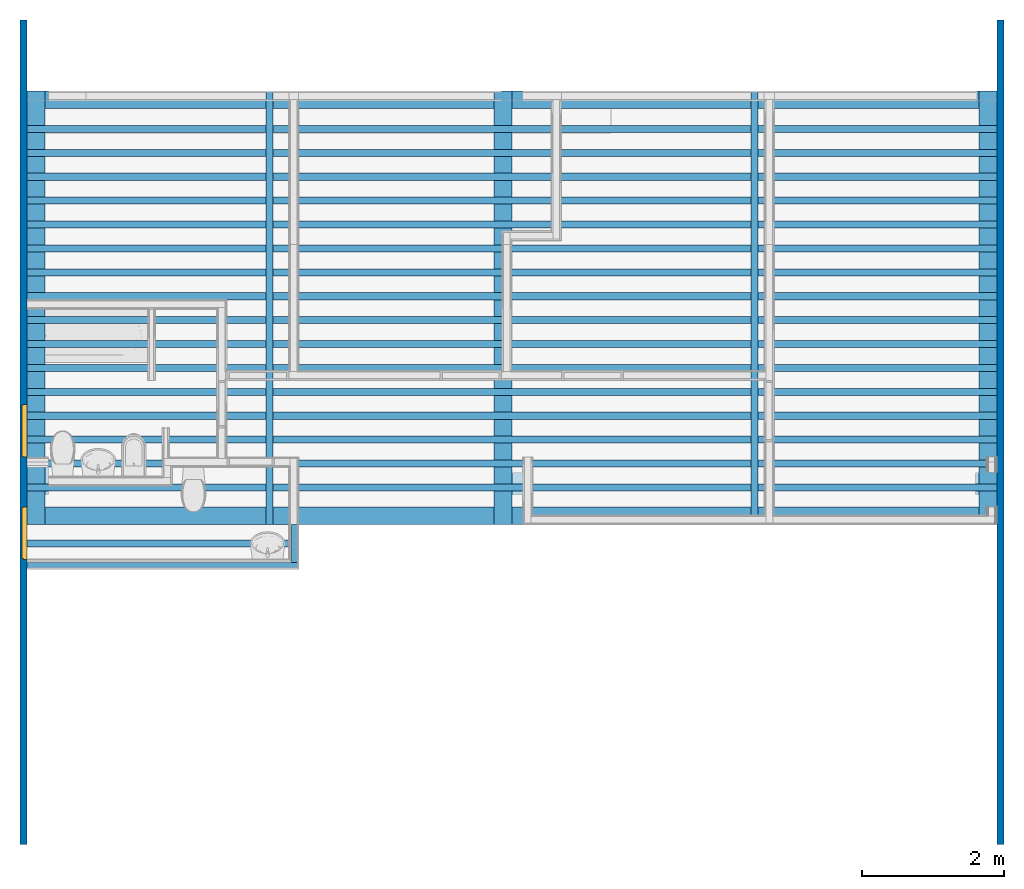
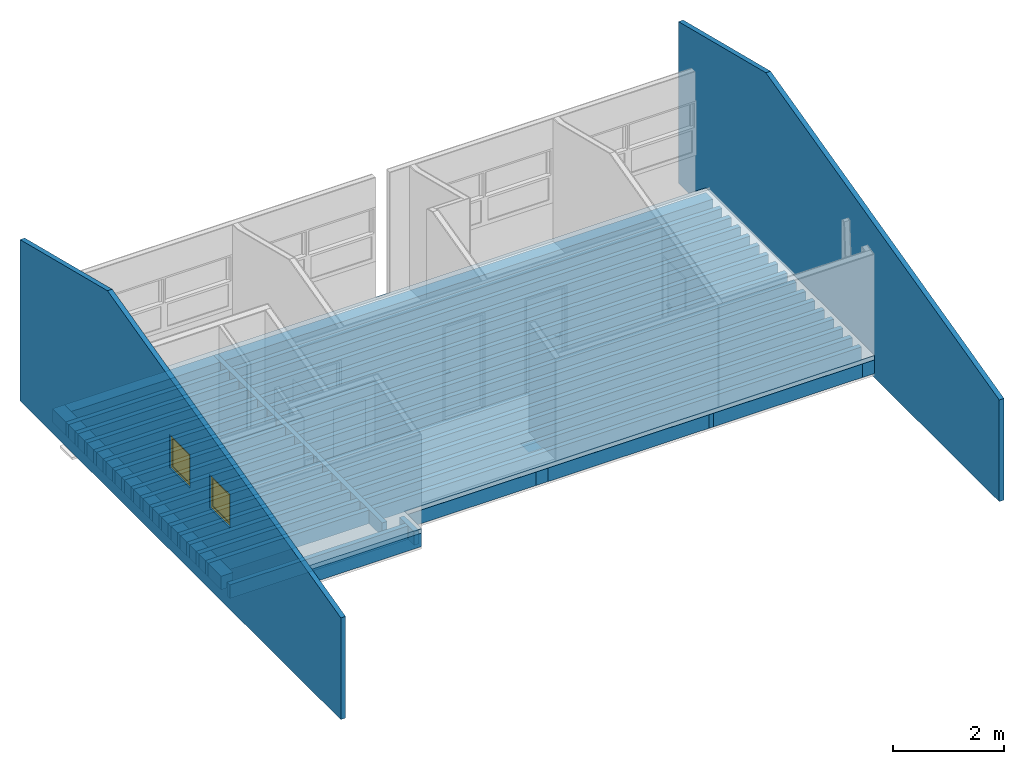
# One storey, part 1 of 13: 26 beams, 2 walls, 2 windows, 1 slab, 2 openings.
"""IFC2X3 building model written with IfcOpenShell, lengths in millimetres."""

from ifc_helpers import new_model, entity, si_unit, converted_unit, derived_unit, money_unit, direction, frame, frame_2d, origin_with_axes, origin_2d_with_axis, place, context, subcontext, project, spatial, polyline, rectangle, outline, extrude, boolean, open_shell, faceted_brep, surface_model, source, transform, mapped, material, layer, layer_set, layer_usage, type_object, element, fill, save


model = new_model("IFC2X3")

# Units and contexts
model_context = context("Model", 3, precision=0.01, world=origin_with_axes(), true_north=direction((0.293984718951, 0.955810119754)))
body_context = subcontext(model_context, "Body", "Model", "MODEL_VIEW")
ifc_project = project(units=[si_unit("LENGTHUNIT", "METRE", prefix="MILLI"), si_unit("AREAUNIT", "SQUARE_METRE"), si_unit("VOLUMEUNIT", "CUBIC_METRE"), converted_unit("PLANEANGLEUNIT", "DEGREE", entity("IfcPlaneAngleMeasure", 0.0174532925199), si_unit("PLANEANGLEUNIT", "RADIAN"), dimensions=[0, 0, 0, 0, 0, 0, 0]), si_unit("SOLIDANGLEUNIT", "STERADIAN"), money_unit("USD"), converted_unit("TIMEUNIT", "Year", entity("IfcTimeMeasure", 31556926.0), si_unit("TIMEUNIT", "SECOND"), dimensions=[0, 0, 1, 0, 0, 0, 0]), si_unit("MASSUNIT", "GRAM", prefix="KILO"), si_unit("THERMODYNAMICTEMPERATUREUNIT", "DEGREE_CELSIUS"), si_unit("LUMINOUSINTENSITYUNIT", "LUMEN"), si_unit("ENERGYUNIT", "JOULE", prefix="MEGA"), derived_unit("THERMALCONDUCTANCEUNIT", [(si_unit("POWERUNIT", "WATT"), 1), (si_unit("LENGTHUNIT", "METRE"), -1), (si_unit("THERMODYNAMICTEMPERATUREUNIT", "KELVIN"), -1)]), derived_unit("SPECIFICHEATCAPACITYUNIT", [(si_unit("ENERGYUNIT", "JOULE"), 1), (si_unit("MASSUNIT", "GRAM", prefix="KILO"), -1), (si_unit("THERMODYNAMICTEMPERATUREUNIT", "KELVIN"), -1)]), derived_unit("MASSDENSITYUNIT", [(si_unit("MASSUNIT", "GRAM", prefix="KILO"), 1), (si_unit("VOLUMEUNIT", "CUBIC_METRE"), -1)])], contexts=[model_context])

# Site, building, storey
site_placement = place(None, origin_with_axes())
site = spatial("IfcSite", under=ifc_project, at=site_placement, Name="Local", CompositionType="ELEMENT")
building_placement = place(site_placement, origin_with_axes())
building = spatial("IfcBuilding", under=site, at=building_placement, Name="Construção", CompositionType="ELEMENT")
storey_placement = place(building_placement, frame((0.0, 0.0, 3050.0), z_axis=(0.0, 0.0, 1.0), x_axis=(1.0, 0.0, 0.0)))
storey = spatial("IfcBuildingStorey", under=building, at=storey_placement, Name="Primeiro Pavimento", CompositionType="ELEMENT", Elevation=3050.0)

# Beams
ifc_material = material(Name="Concreto Armado - Estrutural")
beam_type_1 = type_object("IfcBeamType", Name="Concreto Armado - Estrutural 250 x 300", PredefinedType="NOTDEFINED")
beam_1_placement = place(storey_placement, frame((7009.64507267, 6850.63219788, -100.0), z_axis=(0.0, 0.0, 1.0), x_axis=(0.0, -1.0, 0.0)))
element("IfcBeam", 1, at=beam_1_placement, inside=storey, type_object=beam_type_1, material=ifc_material, Name="V13", context=body_context, shape_type="SweptSolid", body=[
    extrude(rectangle(XDim=300.0, YDim=250.0, at=frame_2d((-150.0, -125.0), x_axis=(1.0, 0.0))), frame((0.0, 0.0, 0.0), z_axis=(0.0, 1.0, 0.0), x_axis=(0.0, 0.0, 1.0)), (0.0, 0.0, 1.0), 13640.0),
])
beam_2_placement = place(storey_placement, frame((20649.6450727, 6850.63219788, -100.0), z_axis=(0.0, 0.0, 1.0), x_axis=(1.0, 0.0, 0.0)))
element("IfcBeam", 2, at=beam_2_placement, inside=storey, type_object=beam_type_1, material=ifc_material, Name="V13", context=body_context, shape_type="SweptSolid", body=[
    extrude(rectangle(XDim=300.0, YDim=250.0, at=frame_2d((-150.0, -125.0), x_axis=(1.0, 0.0))), frame((0.0, 0.0, 0.0), z_axis=(0.0, 1.0, 0.0), x_axis=(0.0, 0.0, 1.0)), (0.0, 0.0, 1.0), 6100.0),
])
beam_3_placement = place(storey_placement, frame((20649.6450727, 12950.6321979, -100.0), z_axis=(0.0, 0.0, 1.0), x_axis=(0.0, 1.0, 0.0)))
element("IfcBeam", 3, at=beam_3_placement, inside=storey, type_object=beam_type_1, material=ifc_material, Name="V13", context=body_context, shape_type="SweptSolid", body=[
    extrude(rectangle(XDim=300.0, YDim=250.0, at=frame_2d((-150.0, -125.0), x_axis=(1.0, 0.0))), frame((0.0, 0.0, 0.0), z_axis=(0.0, 1.0, 0.0), x_axis=(0.0, 0.0, 1.0)), (0.0, 0.0, 1.0), 13640.0),
])
for number, where, z_axis, x_axis, name in (
    (4, (7009.64507267, 12950.6321979, -100.0), (0.0, 0.0, 1.0), (-1.0, 0.0, 0.0), "V13"),
    (5, (13829.6450727, 6850.63219788, -100.0), (0.0, 0.0, 1.0), (1.0, 0.0, 0.0), "V13"),
):
    element("IfcBeam", number, at=place(storey_placement, frame(where, z_axis=z_axis, x_axis=x_axis)), inside=storey, type_object=beam_type_1, material=ifc_material, Name=name, context=body_context, shape_type="SweptSolid", body=[
        extrude(rectangle(XDim=300.0, YDim=250.0, at=frame_2d((-150.0, -125.0), x_axis=(1.0, 0.0))), frame((0.0, 0.0, 0.0), z_axis=(0.0, 1.0, 0.0), x_axis=(0.0, 0.0, 1.0)), (0.0, 0.0, 1.0), 6100.0),
    ])
beam_type_2 = type_object("IfcBeamType", Name="Concreto Armado - Estrutural 100 x 300", PredefinedType="NOTDEFINED")
for number, where, z_axis, x_axis, name in (
    (6, (20649.6450727, 7373.13219788, -100.0), (0.0, 0.0, 1.0), (0.0, 1.0, 0.0), "V13"),
    (7, (20649.6450727, 7709.22594788, -100.0), (0.0, 0.0, 1.0), (0.0, 1.0, 0.0), "V13"),
    (8, (20649.6450727, 8045.31969788, -100.0), (0.0, 0.0, 1.0), (0.0, 1.0, 0.0), "V13"),
    (9, (20649.6450727, 8381.41344788, -100.0), (0.0, 0.0, 1.0), (0.0, 1.0, 0.0), "V13"),
    (10, (20649.6450727, 8717.50719788, -100.0), (0.0, 0.0, 1.0), (0.0, 1.0, 0.0), "V13"),
    (11, (20649.6450727, 9053.60094788, -100.0), (0.0, 0.0, 1.0), (0.0, 1.0, 0.0), "V13"),
    (12, (20649.6450727, 9389.69469788, -100.0), (0.0, 0.0, 1.0), (0.0, 1.0, 0.0), "V13"),
    (13, (20649.6450727, 9725.78844788, -100.0), (0.0, 0.0, 1.0), (0.0, 1.0, 0.0), "V13"),
    (14, (20649.6450727, 10061.8821979, -100.0), (0.0, 0.0, 1.0), (0.0, 1.0, 0.0), "V13"),
    (15, (20649.6450727, 10397.9759479, -100.0), (0.0, 0.0, 1.0), (0.0, 1.0, 0.0), "V13"),
    (16, (20649.6450727, 10734.0696979, -100.0), (0.0, 0.0, 1.0), (0.0, 1.0, 0.0), "V13"),
    (17, (20649.6450727, 11070.1634479, -100.0), (0.0, 0.0, 1.0), (0.0, 1.0, 0.0), "V13"),
    (18, (20649.6450727, 11406.2571979, -100.0), (0.0, 0.0, 1.0), (0.0, 1.0, 0.0), "V13"),
    (19, (20649.6450727, 11742.3509479, -100.0), (0.0, 0.0, 1.0), (0.0, 1.0, 0.0), "V13"),
    (20, (20649.6450727, 12078.4446979, -100.0), (0.0, 0.0, 1.0), (0.0, 1.0, 0.0), "V13"),
    (21, (20649.6450727, 12414.5384479, -100.0), (0.0, 0.0, 1.0), (0.0, 1.0, 0.0), "V13"),
):
    element("IfcBeam", number, at=place(storey_placement, frame(where, z_axis=z_axis, x_axis=x_axis)), inside=storey, type_object=beam_type_2, material=ifc_material, Name=name, context=body_context, shape_type="SweptSolid", body=[
        extrude(rectangle(XDim=300.0, YDim=100.0, at=frame_2d((-150.0, 0.0), x_axis=(1.0, 0.0))), frame((0.0, 0.0, 0.0), z_axis=(0.0, 1.0, 0.0), x_axis=(0.0, 0.0, 1.0)), (0.0, 0.0, 1.0), 13640.0),
    ])
for number, where, z_axis, x_axis, name in (
    (22, (10419.6450727, 6850.63219788, -100.0), (0.0, 0.0, 1.0), (1.0, 0.0, 0.0), "V13"),
    (23, (17239.6450727, 6850.63219788, -100.0), (0.0, 0.0, 1.0), (1.0, 0.0, 0.0), "V13"),
):
    element("IfcBeam", number, at=place(storey_placement, frame(where, z_axis=z_axis, x_axis=x_axis)), inside=storey, type_object=beam_type_2, material=ifc_material, Name=name, context=body_context, shape_type="SweptSolid", body=[
        extrude(rectangle(XDim=300.0, YDim=100.0, at=frame_2d((-150.0, 0.0), x_axis=(1.0, 0.0))), frame((0.0, 0.0, 0.0), z_axis=(0.0, 1.0, 0.0), x_axis=(0.0, 0.0, 1.0)), (0.0, 0.0, 1.0), 6100.0),
    ])
beam_4_placement = place(storey_placement, frame((10829.6450727, 6270.63219788, -100.0), z_axis=(0.0, 0.0, 1.0), x_axis=(0.0, 1.0, 0.0)))
element("IfcBeam", 24, at=beam_4_placement, inside=storey, type_object=beam_type_2, material=ifc_material, Name="V13", context=body_context, shape_type="SweptSolid", body=[
    extrude(rectangle(XDim=300.0, YDim=100.0, at=frame_2d((-150.0, 0.0), x_axis=(1.0, 0.0))), frame((0.0, 0.0, 0.0), z_axis=(0.0, 1.0, 0.0), x_axis=(0.0, 0.0, 1.0)), (0.0, 0.0, 1.0), 3820.0),
])
beam_5_placement = place(storey_placement, frame((10829.6450727, 6585.63219788, -100.0), z_axis=(0.0, 0.0, 1.0), x_axis=(0.0, 1.0, 0.0)))
element("IfcBeam", 25, at=beam_5_placement, inside=storey, type_object=beam_type_2, material=ifc_material, Name="V13", context=body_context, shape_type="SweptSolid", body=[
    extrude(rectangle(XDim=300.0, YDim=100.0, at=frame_2d((-150.0, 0.0), x_axis=(1.0, 0.0))), frame((0.0, 0.0, 0.0), z_axis=(0.0, 1.0, 0.0), x_axis=(0.0, 0.0, 1.0)), (0.0, 0.0, 1.0), 3820.00000001),
])
beam_6_placement = place(storey_placement, frame((10829.6450727, 6850.63219788, -100.0), z_axis=(0.0, 0.0, 1.0), x_axis=(-1.0, 0.0, 0.0)))
element("IfcBeam", 26, at=beam_6_placement, inside=storey, type_object=beam_type_2, material=ifc_material, Name="V13", context=body_context, shape_type="SweptSolid", body=[
    extrude(rectangle(XDim=300.0, YDim=100.0, at=frame_2d((-150.0, 50.0), x_axis=(1.0, 0.0))), frame((0.0, 0.0, 0.0), z_axis=(0.0, 1.0, 0.0), x_axis=(0.0, 0.0, 1.0)), (0.0, 0.0, 1.0), 530.000000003),
])

# Slab
ifc_layer = layer(ifc_material, 100.0, ventilated="UNKNOWN")
ifc_layer_set = layer_set([ifc_layer], Name="Concreto Armado - Estrutural 100")
ifc_layer_usage = layer_usage(ifc_layer_set, "AXIS3", "NEGATIVE", 100.0)
slab_type = type_object("IfcSlabType", Name="Concreto Armado - Estrutural 100", PredefinedType="FLOOR")
slab_placement = place(storey_placement, frame((7009.64507267, 6220.63219788, 0.0), z_axis=(0.0, 0.0, 1.0), x_axis=(1.0, 0.0, 0.0)))
element("IfcSlab", 27, at=slab_placement, inside=storey, type_object=slab_type, material=ifc_layer_usage, Name="Laje-01", PredefinedType="FLOOR", context=body_context, shape_type="SweptSolid", body=[
    extrude(outline(polyline([(0.0, 0.0), (3820.0, 0.0), (3820.0, 630.000000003), (13640.0, 630.000000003), (13640.0, 6730.0), (0.0, 6730.0), (0.0, 0.0)])), frame((0.0, 0.0, -100.0), z_axis=(0.0, 0.0, 1.0), x_axis=(1.0, 0.0, 0.0)), (0.0, 0.0, 1.0), 100.0),
])

# Wall
wall_type = type_object("IfcWallType", Name="Concreto Armado - Estrutural 100", PredefinedType="NOTDEFINED")
wall_1_placement = place(storey_placement, frame((20649.6450727, 13950.6321979, -500.0), z_axis=(0.0, 0.0, 1.0), x_axis=(0.0, -1.0, 0.0)))
element("IfcWall", 28, at=wall_1_placement, inside=storey, type_object=wall_type, material=ifc_material, Name="Empena", context=body_context, shape_type="CSG", body=[
    boolean("DIFFERENCE", extrude(outline(polyline([(0.0, 0.0), (11600.0, 0.0), (11600.0, 100.0), (0.0, 100.0), (0.0, 0.0)])), origin_with_axes(), (0.0, 0.0, 1.0), 4401.13719243), faceted_brep([(11600.0, 100.0, 2244.65529355), (3163.32569983, 100.000000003, 4348.15444745), (2.91285007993, 100.0, 3560.17502337), (2.91285007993, 100.0, 0.0), (0.0, 100.0, 0.0), (0.0, 100.0, 4401.13719243), (11600.0, 100.0, 4401.13719243), (11600.0, 0.0, 2244.65529355), (3163.32569983, 0.0, 4348.15444745), (2.91285007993, 0.0, 3560.17502337), (2.91285007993, 0.0, 0.0), (0.0, 0.0, 0.0), (0.0, 0.0, 4401.13719243), (11600.0, 0.0, 4401.13719243)], [[[0, 1, 2, 3, 4, 5, 6]], [[1, 0, 7, 8]], [[2, 1, 8, 9]], [[3, 2, 9, 10]], [[3, 10, 11, 4]], [[5, 4, 11, 12]], [[5, 12, 13, 6]], [[7, 0, 6, 13]], [[8, 7, 13, 12, 11, 10, 9]]])),
])

# Wall, openings, windows
wall_2_placement = place(storey_placement, frame((7009.64507267, 13950.6321979, -500.0), z_axis=(0.0, 0.0, 1.0), x_axis=(0.0, -1.0, 0.0)))
wall_2 = element("IfcWall", 29, at=wall_2_placement, inside=storey, type_object=wall_type, material=ifc_material, Name="Empena", context=body_context, shape_type="CSG", body=[
    boolean("DIFFERENCE", extrude(outline(polyline([(0.0, -100.0), (11600.0, -100.0), (11600.0, 0.0), (0.0, 0.0), (0.0, -100.0)])), origin_with_axes(), (0.0, 0.0, 1.0), 4348.15444745), faceted_brep([(2.91285007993, 0.0, 3560.17502337), (2.91285007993, 0.0, 0.0), (0.0, 0.0, 0.0), (0.0, 0.0, 4348.15444745), (3163.32569983, 0.0, 4348.15444745), (2.91285007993, -100.0, 3560.17502337), (2.91285007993, -100.0, 0.0), (0.0, -100.0, 0.0), (0.0, -100.0, 4348.15444745), (3163.32569983, -100.000000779, 4348.15444745), (11600.0, -100.0, 4348.15444745), (11600.0, 0.0, 4348.15444745), (11600.0, -100.0, 2244.65529355), (11600.0, 0.0, 2244.65529355)], [[[0, 1, 2, 3, 4]], [[1, 0, 5, 6]], [[1, 6, 7, 2]], [[3, 2, 7, 8]], [[3, 8, 9, 10, 11, 4]], [[0, 4, 9, 5]], [[5, 9, 8, 7, 6]], [[9, 12, 10]], [[12, 13, 11, 10]], [[13, 4, 11]], [[4, 13, 12, 9]]])),
])
opening_1_placement = place(wall_2_placement, frame((7220.0, 0.0, 1800.0), z_axis=(0.0, 0.0, 1.0), x_axis=(1.0, 0.0, 0.0)))
opening_1 = element("IfcOpeningElement", 30, at=opening_1_placement, cuts=wall_2, Name="J07", context=body_context, shape_type="SweptSolid", body=[
    extrude(rectangle(XDim=740.0, YDim=740.0, at=origin_2d_with_axis()), frame((0.0, -50.0, 370.0), z_axis=(0.0, 1.0, 0.0), x_axis=(-1.0, 0.0, 0.0)), (0.0, 0.0, -1.0), 150.0),
    extrude(rectangle(XDim=740.0, YDim=740.0, at=origin_2d_with_axis()), frame((0.0, -50.0, 370.0), z_axis=(0.0, -1.0, 0.0), x_axis=(-1.0, 0.0, 0.0)), (0.0, 0.0, -1.0), 150.0),
])
opening_2_placement = place(wall_2_placement, frame((5780.0, 0.0, 1800.0), z_axis=(0.0, 0.0, 1.0), x_axis=(1.0, 0.0, 0.0)))
opening_2 = element("IfcOpeningElement", 31, at=opening_2_placement, cuts=wall_2, Name="J07", context=body_context, shape_type="SweptSolid", body=[
    extrude(rectangle(XDim=740.0, YDim=740.0, at=origin_2d_with_axis()), frame((0.0, -50.0, 370.0), z_axis=(0.0, 1.0, 0.0), x_axis=(-1.0, 0.0, 0.0)), (0.0, 0.0, -1.0), 150.0),
    extrude(rectangle(XDim=740.0, YDim=740.0, at=origin_2d_with_axis()), frame((0.0, -50.0, 370.0), z_axis=(0.0, -1.0, 0.0), x_axis=(-1.0, 0.0, 0.0)), (0.0, 0.0, -1.0), 150.0),
])
window_style = type_object("IfcWindowStyle", Name="Janela 23", ConstructionType="NOTDEFINED", OperationType="SINGLE_PANEL", ParameterTakesPrecedence=False, Sizeable=False)
shared_shape = source(origin_with_axes(), body_context, "Body", "SurfaceModel", [
    faceted_brep([(-360.0, 0.0, 705.0), (-370.0, 0.0, 705.0), (-370.0, -50.0, 705.0), (-335.0, -50.0, 705.0), (-335.0, -25.0, 705.0), (-360.0, -25.0, 705.0), (-360.0, 0.0, 35.0), (-370.0, 0.0, 35.0), (-370.0, -50.0, 35.0), (-335.0, -50.0, 35.0), (-335.0, -25.0, 35.0), (-360.0, -25.0, 35.0)], [[[0, 1, 2, 3, 4, 5]], [[6, 7, 1, 0]], [[1, 7, 8, 2]], [[2, 8, 9, 3]], [[4, 3, 9, 10]], [[10, 11, 5, 4]], [[5, 11, 6, 0]], [[11, 10, 9, 8, 7, 6]]]),
    faceted_brep([(335.0, -25.0, 705.0), (335.0, -50.0, 705.0), (370.0, -50.0, 705.0), (370.0, 0.0, 705.0), (360.0, 0.0, 705.0), (360.0, -25.0, 705.0), (335.0, -25.0, 35.0), (335.0, -50.0, 35.0), (370.0, -50.0, 35.0), (370.0, 0.0, 35.0), (360.0, 0.0, 35.0), (360.0, -25.0, 35.0)], [[[0, 1, 2, 3, 4, 5]], [[6, 7, 1, 0]], [[8, 2, 1, 7]], [[9, 3, 2, 8]], [[4, 3, 9, 10]], [[10, 11, 5, 4]], [[5, 11, 6, 0]], [[11, 10, 9, 8, 7, 6]]]),
    faceted_brep([(335.0, -25.0, 35.0), (335.0, -50.0, 35.0), (370.0, -50.0, 35.0), (370.0, 0.0, 35.0), (360.0, 0.0, 35.0), (360.0, -25.0, 35.0), (-335.0, -25.0, 35.0), (-335.0, -50.0, 35.0), (-370.0, -50.0, 35.0), (-370.0, -50.0, 0.0), (370.0, -50.0, 0.0), (370.0, 0.0, 0.0), (-360.0, 0.0, 10.0), (360.0, 0.0, 10.0), (-370.0, 0.0, 0.0), (-370.0, 0.0, 35.0), (-360.0, 0.0, 35.0), (360.0, -25.0, 10.0), (-360.0, -25.0, 10.0), (-360.0, -25.0, 35.0)], [[[0, 1, 2, 3, 4, 5]], [[6, 7, 1, 0]], [[8, 9, 10, 2, 1, 7]], [[11, 3, 2, 10]], [[12, 13, 4, 3, 11, 14, 15, 16]], [[13, 17, 5, 4]], [[5, 17, 18, 19, 6, 0]], [[19, 16, 15, 8, 7, 6]], [[15, 14, 9, 8]], [[14, 11, 10, 9]], [[12, 18, 17, 13]], [[19, 18, 12, 16]]]),
    faceted_brep([(-360.0, 0.0, 705.0), (-370.0, 0.0, 705.0), (-370.0, 0.0, 740.0), (370.0, 0.0, 740.0), (370.0, 0.0, 705.0), (360.0, 0.0, 705.0), (360.0, 0.0, 730.0), (-360.0, 0.0, 730.0), (-360.0, -25.0, 705.0), (-335.0, -25.0, 705.0), (-335.0, -50.0, 705.0), (-370.0, -50.0, 705.0), (-370.0, -50.0, 740.0), (370.0, -50.0, 740.0), (370.0, -50.0, 705.0), (360.0, -25.0, 705.0), (335.0, -50.0, 705.0), (335.0, -25.0, 705.0), (360.0, -25.0, 730.0), (-360.0, -25.0, 730.0)], [[[0, 1, 2, 3, 4, 5, 6, 7]], [[8, 9, 10, 11, 1, 0]], [[2, 1, 11, 12]], [[3, 2, 12, 13]], [[4, 3, 13, 14]], [[15, 5, 4, 14, 16, 17]], [[5, 15, 18, 6]], [[6, 18, 19, 7]], [[7, 19, 8, 0]], [[17, 9, 8, 19, 18, 15]], [[17, 16, 10, 9]], [[14, 13, 12, 11, 10, 16]]]),
    faceted_brep([(-310.0, -25.0, 680.0), (-310.0, 25.0, 680.0), (-360.0, 25.0, 680.0), (-360.0, -25.0, 680.0), (-310.0, -25.0, 60.0), (-310.0, 25.0, 60.0), (-360.0, 25.0, 60.0), (-360.0, -25.0, 60.0)], [[[0, 1, 2, 3]], [[4, 5, 1, 0]], [[1, 5, 6, 2]], [[3, 2, 6, 7]], [[0, 3, 7, 4]], [[7, 6, 5, 4]]]),
    faceted_brep([(310.0, -25.0, 60.0), (310.0, 25.0, 60.0), (360.0, 25.0, 60.0), (360.0, -25.0, 60.0), (310.0, -25.0, 680.0), (310.0, 25.0, 680.0), (360.0, 25.0, 680.0), (360.0, -25.0, 680.0)], [[[0, 1, 2, 3]], [[4, 5, 1, 0]], [[1, 5, 6, 2]], [[3, 2, 6, 7]], [[0, 3, 7, 4]], [[7, 6, 5, 4]]]),
    faceted_brep([(360.0, -25.0, 10.0), (360.0, 25.0, 10.0), (360.0, 25.0, 60.0), (360.0, -25.0, 60.0), (-360.0, -25.0, 10.0), (-360.0, 25.0, 10.0), (-360.0, 25.0, 60.0), (-310.0, 25.0, 60.0), (310.0, 25.0, 60.0), (310.0, -25.0, 60.0), (-310.0, -25.0, 60.0), (-360.0, -25.0, 60.0)], [[[0, 1, 2, 3]], [[4, 5, 1, 0]], [[1, 5, 6, 7, 8, 2]], [[3, 2, 8, 9]], [[0, 3, 9, 10, 11, 4]], [[11, 6, 5, 4]], [[10, 7, 6, 11]], [[9, 8, 7, 10]]]),
    faceted_brep([(-360.0, -25.0, 730.0), (-360.0, 25.0, 730.0), (-360.0, 25.0, 680.0), (-360.0, -25.0, 680.0), (360.0, -25.0, 730.0), (360.0, 25.0, 730.0), (360.0, 25.0, 680.0), (310.0, 25.0, 680.0), (-310.0, 25.0, 680.0), (-310.0, -25.0, 680.0), (310.0, -25.0, 680.0), (360.0, -25.0, 680.0)], [[[0, 1, 2, 3]], [[4, 5, 1, 0]], [[1, 5, 6, 7, 8, 2]], [[3, 2, 8, 9]], [[0, 3, 9, 10, 11, 4]], [[11, 6, 5, 4]], [[10, 7, 6, 11]], [[9, 8, 7, 10]]]),
    surface_model("IfcShellBasedSurfaceModel", [(-310.0, -10.0, 60.0), (310.0, -10.0, 60.0), (310.0, -10.0, 680.0), (-310.0, -10.0, 680.0)], [open_shell([[[0, 1, 2, 3]]])]),
    surface_model("IfcShellBasedSurfaceModel", [(-310.0, 10.0, 60.0), (-310.0, 10.0, 680.0), (310.0, 10.0, 680.0), (310.0, 10.0, 60.0)], [open_shell([[[0, 1, 2, 3]]])]),
])
window_1_placement = place(opening_1_placement, frame((370.0, 0.0, 0.0), z_axis=(0.0, 0.0, 1.0), x_axis=(-1.0, 0.0, 0.0)))
window_1 = element("IfcWindow", 32, at=window_1_placement, inside=storey, type_object=window_style, Name="J07", OverallHeight=740.0, OverallWidth=740.0, context=body_context, shape_type="MappedRepresentation", body=[
    mapped(shared_shape, transform((370.0, 50.0, 0.0))),
])
fill(opening_1, window_1)
window_2_placement = place(opening_2_placement, frame((370.0, 0.0, 0.0), z_axis=(0.0, 0.0, 1.0), x_axis=(-1.0, 0.0, 0.0)))
window_2 = element("IfcWindow", 33, at=window_2_placement, inside=storey, type_object=window_style, Name="J15", OverallHeight=740.0, OverallWidth=740.0, context=body_context, shape_type="MappedRepresentation", body=[
    mapped(shared_shape, transform((370.0, 50.0, 0.0))),
])
fill(opening_2, window_2)

save(model, "model.ifc")
